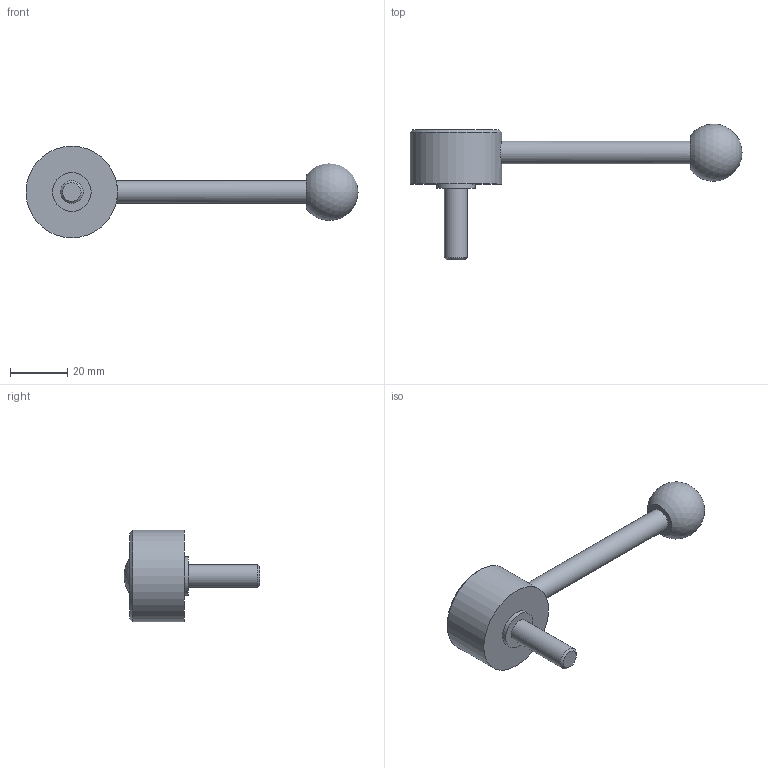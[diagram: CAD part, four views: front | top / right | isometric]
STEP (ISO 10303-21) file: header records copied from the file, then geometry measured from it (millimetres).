
FILE_DESCRIPTION( ( 'STEP AP203' ), '1' );
FILE_NAME( 'C:/Temp/Ganter_Step_05_03_2020/data/2_1/gn_125/gn_125_ms/gn_125_ms_d/Flat Adjustable Lever GN 125-32-M8-25-D.stp', '2020-03-05T11:00:44', ( 'License CC BY-ND 4.0' ), ( 'CADENAS' ), ' ', 'PARTsolutions', ' ' );
FILE_SCHEMA( ( 'CONFIG_CONTROL_DESIGN' ) );
Length unit declared in the file: millimetre
Products named in the file (1): _Flat Adjustable Lever GN 125-32-M8-25-D
Bounding box: 116 x 47.43 x 32 mm (x, y, z)
Volume: 23996.4 mm3; surface area: 6963.8 mm2
Topology: 1 solids, 1 shells, 14 faces, 23 edges, 15 vertices
Faces by surface type: plane 6, cylinder 5, cone 2, sphere 1
Full cylindrical faces by diameter (mm): 8 x2, 13.5 x1, 22 x1, 32 x1
Entity records: 384 total; most frequent: CARTESIAN_POINT 107, DIRECTION 54, AXIS2_PLACEMENT_3D 27, EDGE_LOOP 26, ORIENTED_EDGE 26, FACE_OUTER_BOUND 19, ADVANCED_FACE 14, VERTEX_POINT 14
